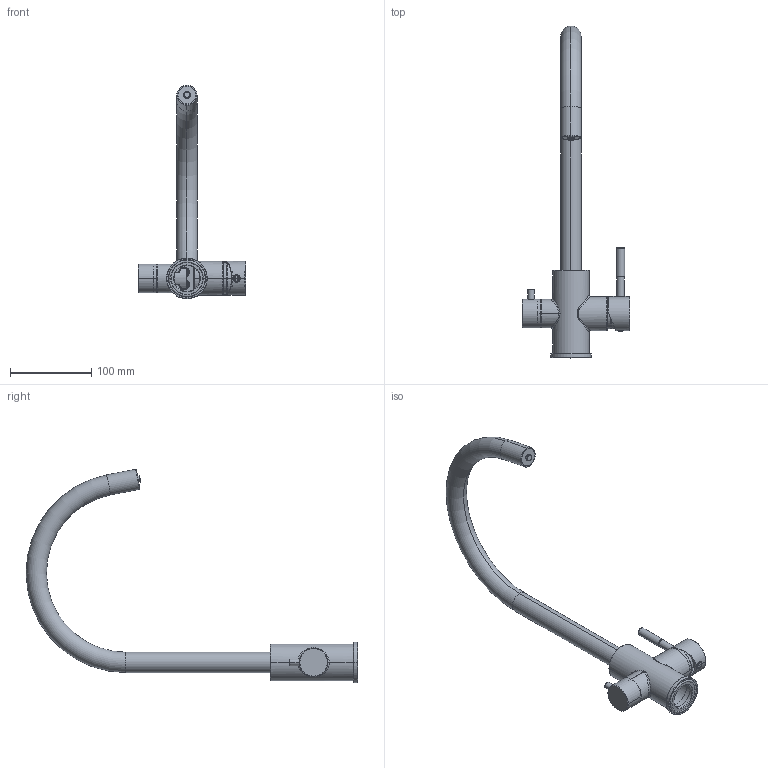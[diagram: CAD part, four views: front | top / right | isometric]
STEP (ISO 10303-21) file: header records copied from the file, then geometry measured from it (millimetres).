
FILE_DESCRIPTION((''),'2;1');
FILE_NAME('GL-458022_ASM','2024-05-29T10:12:26',('S'),(''),'CREO PARAMETRIC BY PTC INC, 2021023','CREO PARAMETRIC BY PTC INC, 2021023','');
FILE_SCHEMA(('AUTOMOTIVE_DESIGN { 1 0 10303 214 1 1 1 1 }'));
Length unit declared in the file: millimetre
Products named in the file (22): 43800600; 458022-0001; 9610220001_ASM; 3FX-001070-MMA-1; 3FX-001070-MAA-2; 3FX-001070-MAA_ASM; 3YG-001035-JAA; 438006000; 458022-0002; 3LS-001044-JAA; 3SN-001001-MCR; 9610220002_ASM; 3ZG-010028-JCR; 458022-0003; 3JQ-001240-NAA; 438006000_ASM; 458022-0004; 35000; 3500; 000; 0002; GL-458022_ASM
Assembly tree (21 placements, depth 4):
  GL-458022_ASM
    438006000_ASM
      9610220001_ASM
        43800600
        458022-0001
      3FX-001070-MAA_ASM
        3FX-001070-MMA-1
        3FX-001070-MAA-2
      3YG-001035-JAA
      9610220002_ASM
        438006000
        458022-0002
        3LS-001044-JAA
        3SN-001001-MCR
      3ZG-010028-JCR
      458022-0003
      3JQ-001240-NAA
    458022-0004
    35000
    3500
    000
    0002
Bounding box: 132.4 x 407.49 x 262.17 mm (x, y, z)
Volume: 506112.7 mm3; surface area: 146840.2 mm2
Topology: 17 solids, 28 shells, 609 faces, 1466 edges, 924 vertices
Faces by surface type: cylinder 276, plane 182, cone 70, torus 48, bspline 27, sphere 6
Entity records: 36582 total; most frequent: CARTESIAN_POINT 11679, DIRECTION 3829, ORIENTED_EDGE 2858, AXIS2_PLACEMENT_3D 1558, EDGE_CURVE 1451, PRESENTATION_STYLE_ASSIGNMENT 1443, STYLED_ITEM 1440, CURVE_STYLE 1108
